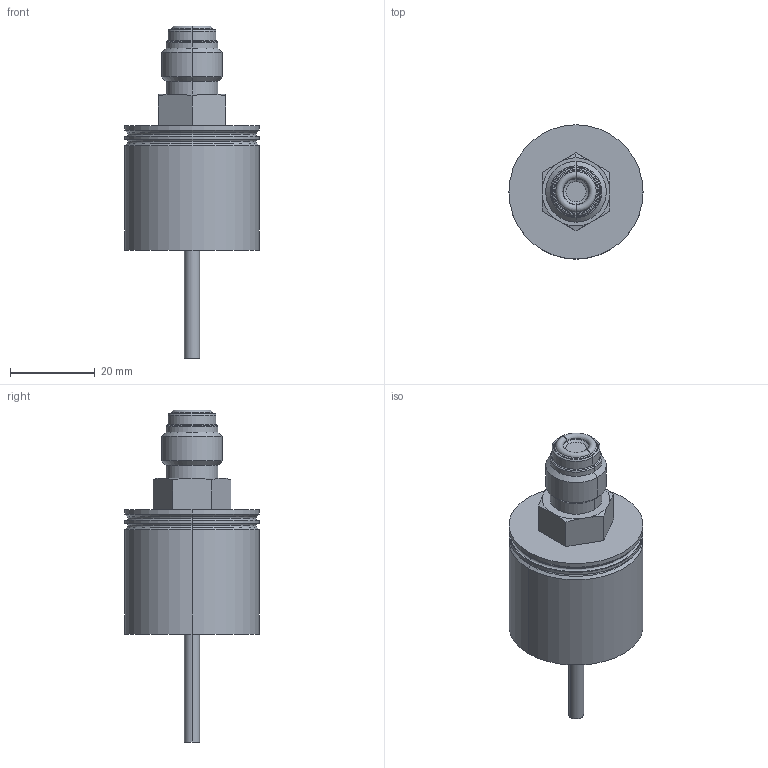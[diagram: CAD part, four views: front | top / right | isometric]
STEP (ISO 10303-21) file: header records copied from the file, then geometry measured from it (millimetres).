
FILE_DESCRIPTION (( 'STEP AP214' ), '1' );
FILE_NAME ('PV36W-TYPE.STEP', '2008-01-14T13:22:23', ( 'Authorized User' ), ( 'Precision Sensors' ), 'SwSTEP 2.0', 'SolidWorks 2006303', '' );
FILE_SCHEMA (( 'AUTOMOTIVE_DESIGN' ));
Length unit declared in the file: inch
Products named in the file (1): PV36W-TYPE
Bounding box: 31.57 x 31.57 x 78.13 mm (x, y, z)
Volume: 26678.2 mm3; surface area: 5972.5 mm2
Topology: 1 solids, 1 shells, 67 faces, 142 edges, 83 vertices
Faces by surface type: torus 20, cone 17, cylinder 16, plane 14
Entity records: 1840 total; most frequent: DIRECTION 351, CARTESIAN_POINT 329, ORIENTED_EDGE 284, AXIS2_PLACEMENT_3D 153, EDGE_CURVE 142, CIRCLE 85, VERTEX_POINT 83, EDGE_LOOP 73
